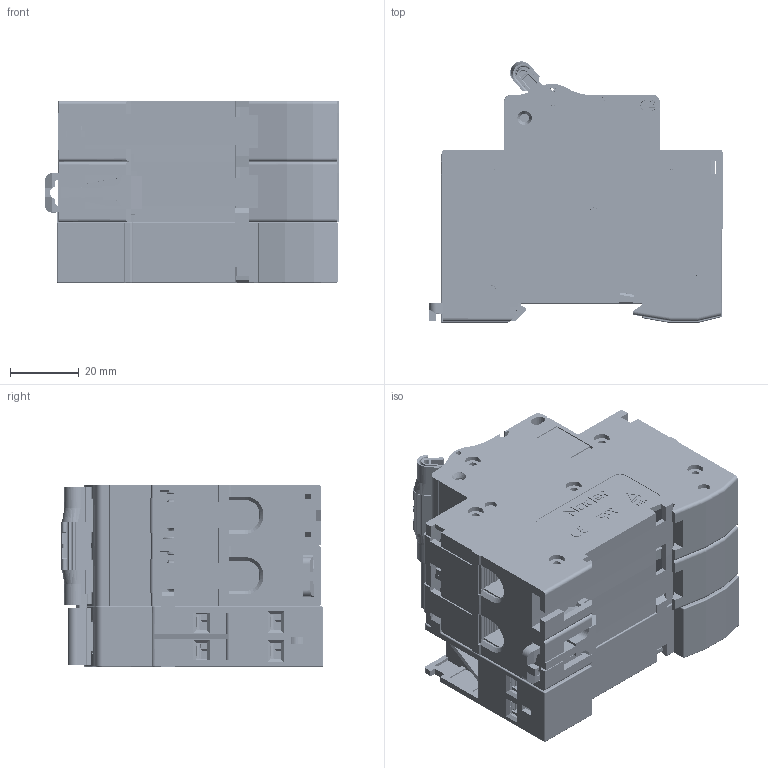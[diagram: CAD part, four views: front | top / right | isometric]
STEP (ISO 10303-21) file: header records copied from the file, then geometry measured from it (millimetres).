
FILE_DESCRIPTION (( 'STEP AP203' ), '1' );
FILE_NAME ('NDB2MX+0F2+0F2 3D.STEP', '2024-07-15T08:14:10', ( '' ), ( '' ), 'SwSTEP 2.0', 'SolidWorks 2018', '' );
FILE_SCHEMA (( 'CONFIG_CONTROL_DESIGN' ));
Length unit declared in the file: millimetre
Products named in the file (42): 8LD.315.0312.STEP; 8LD.730.0071.STEP; 8LD.039.100.STEP.STEP; 8LD.315.140.STEP.STEP; 8LD.270.0027.STEP; 8LD.967.1026.1.STEP; 8LD.281.166.STEP; NDB2-63 2p.STEP.STEP; 8LD.253.129.STEP.STEP; 8LD.281.169.STEP; 8LD.557.0125.STEP; 8LD.516.164.STEP.STEP; ________.STEP; 8LD.905.0001.STEP; 8LD.612.0070.STEP; NDB2MX+0F2+0F2 3D; 8LD.907.115.STEP.STEP; MX+OF2.STEP; 8LD.233.125.STEP; 8LD.315.0311.STEP; 8LD.516.0029.STEP; 1p-____-1.STEP.STEP; 8LD.550.200.STEP; 8LD.516.135.STEP.STEP; 8LD.024.137.STEP.STEP; 8LD.235.112.STEP; 1p-____.STEP.STEP; 8LD.143.115.STEP.STEP; 8LD.253.0222.STEP; 5LD.574.103.STEP.STEP; 2+MX+0F2+0F2 3Dﾄ｣ﾐﾍﾍｼ.STEP; 8LD.516.163.STEP.STEP; 8LD.024.0466.STEP; 8LD.441.0026.STEP; 8LD.315.141.STEP.STEP; ____.STEP; 5LD.574.0017.STEP; 8LD.233.155.STEP; 8LD.585.0100.STEP; 8LD.253.171.STEP.STEP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
Assembly tree (65 placements, depth 6):
  NDB2MX+0F2+0F2 3D
    2+MX+0F2+0F2 3Dﾄ｣ﾐﾍﾍｼ.STEP
      NDB2-63 2p.STEP.STEP
        1p-____.STEP.STEP
          5LD.574.103.STEP.STEP  x2
            8LD.516.135.STEP.STEP
            8LD.907.115.STEP.STEP
          8LD.024.137.STEP.STEP
          8LD.253.129.STEP.STEP
          8LD.315.140.STEP.STEP
          8LD.315.141.STEP.STEP  x2
          8LD.516.163.STEP.STEP
          8LD.516.164.STEP.STEP
          8LD.039.100.STEP.STEP
        1p-____-1.STEP.STEP
          5LD.574.103.STEP.STEP  x2
            8LD.516.135.STEP.STEP
            8LD.907.115.STEP.STEP
          8LD.024.137.STEP.STEP
          8LD.253.129.STEP.STEP
          8LD.143.115.STEP.STEP
          8LD.315.140.STEP.STEP
          8LD.315.141.STEP.STEP  x2
          8LD.516.163.STEP.STEP
          8LD.516.164.STEP.STEP
          8LD.039.100.STEP.STEP
        8LD.253.171.STEP.STEP
      MX+OF2.STEP
        5LD.574.0017.STEP  x4
          8LD.516.0029.STEP
          8LD.905.0001.STEP
          8LD.585.0100.STEP
        8LD.024.0466.STEP
        8LD.315.0311.STEP
        8LD.315.0312.STEP
        8LD.233.155.STEP
        8LD.253.0222.STEP
        8LD.281.166.STEP
        8LD.441.0026.STEP
        8LD.550.200.STEP  x3
        8LD.233.125.STEP
        8LD.557.0125.STEP  x2
        8LD.206.103_____________.STEP  x2
        8LD.281.169.STEP
        8LD.967.1026.1.STEP  x6
        8LD.730.0071.STEP
        8LD.615.1011.STEP
        8LD.612.0070.STEP
        8LD.235.112.STEP
        ________.STEP
        8LD.270.0027.STEP
        ____.STEP
Bounding box: 85.1 x 75.83 x 52.85 mm (x, y, z)
Volume: 185236.1 mm3; surface area: 147215.3 mm2
Topology: 73 solids, 89 shells, 10212 faces, 28276 edges, 18454 vertices
Faces by surface type: plane 6114, cylinder 2856, cone 675, bspline 395, torus 150, sphere 22
Entity records: 233261 total; most frequent: CARTESIAN_POINT 74919, ORIENTED_EDGE 33424, DIRECTION 30246, EDGE_CURVE 16712, VECTOR 11422, LINE 11422, VERTEX_POINT 10903, AXIS2_PLACEMENT_3D 9412
